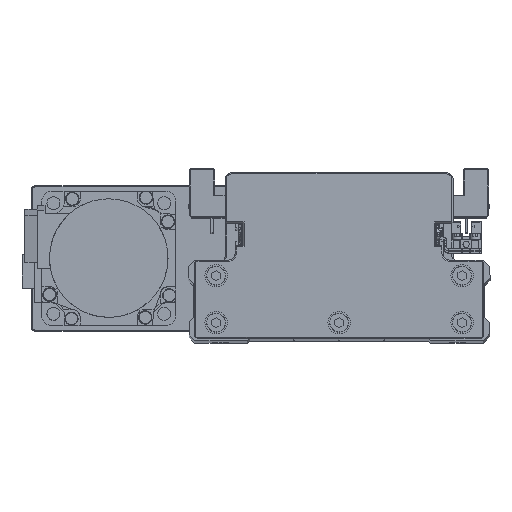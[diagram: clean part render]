
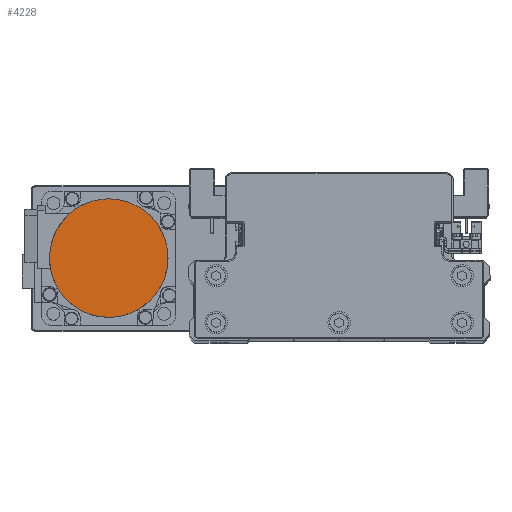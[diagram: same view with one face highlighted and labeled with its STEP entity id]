
A CAD part, top view. The second image highlights one B-rep face of the part: STEP entity #4228.
In plain terms, the highlighted planar face has unit normal (0, 0, 1) as drawn and (0, 0, -1) by its records, which use the part's own axes.
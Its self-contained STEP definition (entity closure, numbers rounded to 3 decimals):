
#232 = CARTESIAN_POINT ( 'NONE',  ( -19.965, -17.512, -109.7 ) ) ;
#248 = CARTESIAN_POINT ( 'NONE',  ( 26.329, 3.469, -109.7 ) ) ;
#432 = CARTESIAN_POINT ( 'NONE',  ( 11.744, -23.819, -109.7 ) ) ;
#450 = CARTESIAN_POINT ( 'NONE',  ( 3.469, 26.329, -109.7 ) ) ;
#650 = CARTESIAN_POINT ( 'NONE',  ( -23.819, 11.744, -109.7 ) ) ;
#1302 = VERTEX_POINT ( 'NONE', #2130 ) ;
#2130 = CARTESIAN_POINT ( 'NONE',  ( 26.5, 0., -109.7 ) ) ;
#2648 = B_SPLINE_CURVE_WITH_KNOTS ( 'NONE', 3,
 ( #22014, #34537, #6404, #18924, #31447, #3311, #15830, #28383, #232, #12752, #25301, #37830, #9674, #22227, #34736, #6596, #19124, #31650, #3520, #16039, #28584, #432, #12957, #25506, #38030, #9869, #22425, #34942, #6799, #19331, #31855, #3722, #16240, #28785 ),
 .UNSPECIFIED., .F., .F.,
 ( 4, 2, 2, 2, 2, 2, 2, 2, 2, 2, 2, 2, 2, 2, 2, 2, 4 ),
 ( 0., 0.063, 0.125, 0.188, 0.25, 0.312, 0.375, 0.437, 0.5, 0.562, 0.625, 0.687, 0.75, 0.813, 0.875, 0.938, 1. ),
 .UNSPECIFIED. ) ;
#3311 = CARTESIAN_POINT ( 'NONE',  ( -23.819, -11.744, -109.7 ) ) ;
#3520 = CARTESIAN_POINT ( 'NONE',  ( 3.469, -26.329, -109.7 ) ) ;
#3538 = CARTESIAN_POINT ( 'NONE',  ( 11.744, 23.819, -109.7 ) ) ;
#3722 = CARTESIAN_POINT ( 'NONE',  ( 26.329, -3.469, -109.7 ) ) ;
#3741 = CARTESIAN_POINT ( 'NONE',  ( -19.965, 17.512, -109.7 ) ) ;
#4228 = ADVANCED_FACE ( 'NONE', ( #40532 ), #12358, .F. ) ;
#6404 = CARTESIAN_POINT ( 'NONE',  ( -26.329, -3.469, -109.7 ) ) ;
#6596 = CARTESIAN_POINT ( 'NONE',  ( -3.469, -26.329, -109.7 ) ) ;
#6615 = CARTESIAN_POINT ( 'NONE',  ( 17.512, 19.965, -109.7 ) ) ;
#6799 = CARTESIAN_POINT ( 'NONE',  ( 23.819, -11.744, -109.7 ) ) ;
#6817 = CARTESIAN_POINT ( 'NONE',  ( -13.28, 22.998, -109.7 ) ) ;
#9278 = DIRECTION ( 'NONE',  ( 1., 0., 0. ) ) ;
#9422 = CARTESIAN_POINT ( 'NONE',  ( -26.5, 0., -109.7 ) ) ;
#9674 = CARTESIAN_POINT ( 'NONE',  ( -11.744, -23.819, -109.7 ) ) ;
#9692 = CARTESIAN_POINT ( 'NONE',  ( 22.998, 13.28, -109.7 ) ) ;
#9869 = CARTESIAN_POINT ( 'NONE',  ( 19.965, -17.512, -109.7 ) ) ;
#9888 = CARTESIAN_POINT ( 'NONE',  ( -6.871, 25.652, -109.7 ) ) ;
#10100 = CARTESIAN_POINT ( 'NONE',  ( -26.5, 1.734, -109.7 ) ) ;
#12358 = PLANE ( 'NONE',  #16587 ) ;
#12752 = CARTESIAN_POINT ( 'NONE',  ( -17.512, -19.965, -109.7 ) ) ;
#12772 = CARTESIAN_POINT ( 'NONE',  ( 25.652, 6.871, -109.7 ) ) ;
#12957 = CARTESIAN_POINT ( 'NONE',  ( 13.28, -22.998, -109.7 ) ) ;
#12972 = CARTESIAN_POINT ( 'NONE',  ( 1.734, 26.5, -109.7 ) ) ;
#13173 = CARTESIAN_POINT ( 'NONE',  ( -25.147, 8.539, -109.7 ) ) ;
#15830 = CARTESIAN_POINT ( 'NONE',  ( -22.998, -13.28, -109.7 ) ) ;
#15845 = CARTESIAN_POINT ( 'NONE',  ( 26.5, 0., -109.7 ) ) ;
#16039 = CARTESIAN_POINT ( 'NONE',  ( 6.871, -25.652, -109.7 ) ) ;
#16056 = CARTESIAN_POINT ( 'NONE',  ( 8.539, 25.147, -109.7 ) ) ;
#16240 = CARTESIAN_POINT ( 'NONE',  ( 26.5, -1.734, -109.7 ) ) ;
#16258 = CARTESIAN_POINT ( 'NONE',  ( -21.07, 16.165, -109.7 ) ) ;
#16504 = ORIENTED_EDGE ( 'NONE', *, *, #20969, .F. ) ;
#16587 = AXIS2_PLACEMENT_3D ( 'NONE', #24905, #37427, #9278 ) ;
#18924 = CARTESIAN_POINT ( 'NONE',  ( -25.652, -6.871, -109.7 ) ) ;
#19124 = CARTESIAN_POINT ( 'NONE',  ( -1.734, -26.5, -109.7 ) ) ;
#19142 = CARTESIAN_POINT ( 'NONE',  ( 16.165, 21.07, -109.7 ) ) ;
#19331 = CARTESIAN_POINT ( 'NONE',  ( 25.147, -8.539, -109.7 ) ) ;
#19350 = CARTESIAN_POINT ( 'NONE',  ( -16.165, 21.07, -109.7 ) ) ;
#20969 = EDGE_CURVE ( 'NONE', #1302, #40047, #21334, .T. ) ;
#21334 = B_SPLINE_CURVE_WITH_KNOTS ( 'NONE', 3,
 ( #15845, #28400, #248, #12772, #25319, #37846, #9692, #22241, #34753, #6615, #19142, #31665, #3538, #16056, #28604, #450, #12972, #25524, #38046, #9888, #22446, #34960, #6817, #19350, #31874, #3741, #16258, #28800, #650, #13173, #25727, #38260, #10100, #22648 ),
 .UNSPECIFIED., .F., .F.,
 ( 4, 2, 2, 2, 2, 2, 2, 2, 2, 2, 2, 2, 2, 2, 2, 2, 4 ),
 ( 0., 0.062, 0.125, 0.187, 0.25, 0.312, 0.375, 0.437, 0.5, 0.562, 0.625, 0.687, 0.75, 0.813, 0.875, 0.938, 1. ),
 .UNSPECIFIED. ) ;
#22014 = CARTESIAN_POINT ( 'NONE',  ( -26.5, 0., -109.7 ) ) ;
#22227 = CARTESIAN_POINT ( 'NONE',  ( -8.539, -25.147, -109.7 ) ) ;
#22241 = CARTESIAN_POINT ( 'NONE',  ( 21.07, 16.165, -109.7 ) ) ;
#22425 = CARTESIAN_POINT ( 'NONE',  ( 21.07, -16.165, -109.7 ) ) ;
#22446 = CARTESIAN_POINT ( 'NONE',  ( -8.539, 25.147, -109.7 ) ) ;
#22648 = CARTESIAN_POINT ( 'NONE',  ( -26.5, 0., -109.7 ) ) ;
#24905 = CARTESIAN_POINT ( 'NONE',  ( 0., 0., -109.7 ) ) ;
#25301 = CARTESIAN_POINT ( 'NONE',  ( -16.165, -21.07, -109.7 ) ) ;
#25319 = CARTESIAN_POINT ( 'NONE',  ( 25.147, 8.539, -109.7 ) ) ;
#25506 = CARTESIAN_POINT ( 'NONE',  ( 16.165, -21.07, -109.7 ) ) ;
#25524 = CARTESIAN_POINT ( 'NONE',  ( -1.734, 26.5, -109.7 ) ) ;
#25727 = CARTESIAN_POINT ( 'NONE',  ( -25.652, 6.871, -109.7 ) ) ;
#28383 = CARTESIAN_POINT ( 'NONE',  ( -21.07, -16.165, -109.7 ) ) ;
#28400 = CARTESIAN_POINT ( 'NONE',  ( 26.5, 1.734, -109.7 ) ) ;
#28584 = CARTESIAN_POINT ( 'NONE',  ( 8.539, -25.147, -109.7 ) ) ;
#28604 = CARTESIAN_POINT ( 'NONE',  ( 6.871, 25.652, -109.7 ) ) ;
#28785 = CARTESIAN_POINT ( 'NONE',  ( 26.5, 0., -109.7 ) ) ;
#28800 = CARTESIAN_POINT ( 'NONE',  ( -22.998, 13.28, -109.7 ) ) ;
#29362 = EDGE_LOOP ( 'NONE', ( #16504, #39618 ) ) ;
#30729 = EDGE_CURVE ( 'NONE', #40047, #1302, #2648, .T. ) ;
#31447 = CARTESIAN_POINT ( 'NONE',  ( -25.147, -8.539, -109.7 ) ) ;
#31650 = CARTESIAN_POINT ( 'NONE',  ( 1.734, -26.5, -109.7 ) ) ;
#31665 = CARTESIAN_POINT ( 'NONE',  ( 13.28, 22.998, -109.7 ) ) ;
#31855 = CARTESIAN_POINT ( 'NONE',  ( 25.652, -6.871, -109.7 ) ) ;
#31874 = CARTESIAN_POINT ( 'NONE',  ( -17.512, 19.965, -109.7 ) ) ;
#34537 = CARTESIAN_POINT ( 'NONE',  ( -26.5, -1.734, -109.7 ) ) ;
#34736 = CARTESIAN_POINT ( 'NONE',  ( -6.871, -25.652, -109.7 ) ) ;
#34753 = CARTESIAN_POINT ( 'NONE',  ( 19.965, 17.512, -109.7 ) ) ;
#34942 = CARTESIAN_POINT ( 'NONE',  ( 22.998, -13.28, -109.7 ) ) ;
#34960 = CARTESIAN_POINT ( 'NONE',  ( -11.744, 23.819, -109.7 ) ) ;
#37427 = DIRECTION ( 'NONE',  ( 0., 0., 1. ) ) ;
#37830 = CARTESIAN_POINT ( 'NONE',  ( -13.28, -22.998, -109.7 ) ) ;
#37846 = CARTESIAN_POINT ( 'NONE',  ( 23.819, 11.744, -109.7 ) ) ;
#38030 = CARTESIAN_POINT ( 'NONE',  ( 17.512, -19.965, -109.7 ) ) ;
#38046 = CARTESIAN_POINT ( 'NONE',  ( -3.469, 26.329, -109.7 ) ) ;
#38260 = CARTESIAN_POINT ( 'NONE',  ( -26.329, 3.469, -109.7 ) ) ;
#39618 = ORIENTED_EDGE ( 'NONE', *, *, #30729, .F. ) ;
#40047 = VERTEX_POINT ( 'NONE', #9422 ) ;
#40532 = FACE_OUTER_BOUND ( 'NONE', #29362, .T. ) ;
